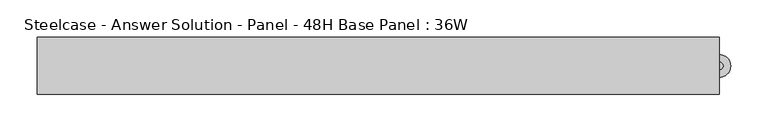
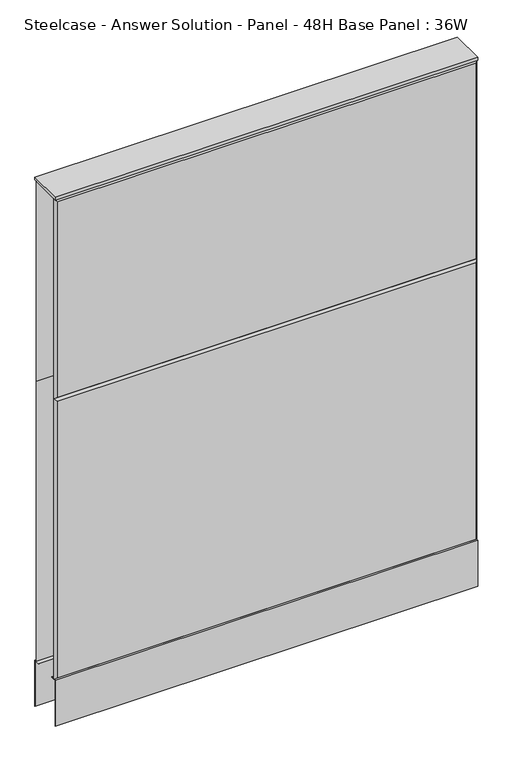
"""IFC4 building model written with IfcOpenShell, lengths in millimetres: furniture geometry, Steelcase - Answer Solution - Panel - 48H Base Panel : 36W."""

from ifc_helpers import new_model, si_unit, point, frame, frame_2d, origin, place, context, project, spatial, polyline, circle_curve, trimmed, segment, composite_curve, outline, extrude, faceted_brep, source, transform, mapped, element, save


def steelcase_answer_solution_panel_48h_base_panel_36w_c58aae0b(model_context):
    return source(origin(), model_context, "Body", "SolidModel", [
        extrude(outline(composite_curve([segment(trimmed(circle_curve(frame_2d((457.2, 0.0320214)), 5.08), [point((462.28, 0.0320214))], [point((452.12, 0.0320214))], False, "CARTESIAN"), True, "CONTINUOUS"), segment(trimmed(circle_curve(frame_2d((457.2, 0.0320214)), 5.08), [point((452.12, 0.0320214))], [point((462.28, 0.0320214))], False, "CARTESIAN"), True, "CONTINUOUS")], self_intersect=False)), frame((0.0, 0.0, 5.0799671), z_axis=(0.0, 0.0, 1.0), x_axis=(1.0, 0.0, 0.0)), (0.0, 0.0, 1.0), 10.414),
        extrude(outline(composite_curve([segment(trimmed(circle_curve(frame_2d((457.2, 0.0320214)), 15.24), [point((472.44, 0.0320214))], [point((441.96, 0.0320214))], False, "CARTESIAN"), True, "CONTINUOUS"), segment(trimmed(circle_curve(frame_2d((457.2, 0.0320214)), 15.24), [point((441.96, 0.0320214))], [point((472.44, 0.0320214))], False, "CARTESIAN"), True, "CONTINUOUS")], self_intersect=False)), frame((0.0, 0.0, -3.29e-05), z_axis=(0.0, 0.0, 1.0), x_axis=(1.0, 0.0, 0.0)), (0.0, 0.0, 1.0), 5.08),
        faceted_brep([(-452.374, 38.1635011, 1214.374), (452.374, 38.1635011, 1214.374), (452.374, 38.1635011, 766.826), (-452.374, 38.1635011, 766.826), (-457.2, 33.3375011, 1219.2), (-457.2, 33.3375011, 762.0), (457.2, 33.3375011, 762.0), (457.2, 33.3375011, 1219.2)], [[[0, 1, 2, 3]], [[4, 5, 6, 7]], [[4, 7, 1, 0]], [[7, 6, 2, 1]], [[6, 5, 3, 2]], [[5, 4, 0, 3]]]),
        faceted_brep([(-452.374, 38.1635011, 757.174), (452.374, 38.1635011, 757.174), (452.374, 38.1635011, 125.476), (-452.374, 38.1635011, 125.476), (-457.2, 33.3375011, 762.0), (-457.2, 33.3375011, 120.65), (457.2, 33.3375011, 120.65), (457.2, 33.3375011, 762.0)], [[[0, 1, 2, 3]], [[4, 5, 6, 7]], [[4, 7, 1, 0]], [[7, 6, 2, 1]], [[6, 5, 3, 2]], [[5, 4, 0, 3]]]),
        faceted_brep([(452.374, -38.1635011, 1214.374), (-452.374, -38.1635011, 1214.374), (-452.374, -38.1635011, 766.826), (452.374, -38.1635011, 766.826), (457.2, -33.3375011, 1219.2), (457.2, -33.3375011, 762.0), (-457.2, -33.3375011, 762.0), (-457.2, -33.3375011, 1219.2)], [[[0, 1, 2, 3]], [[4, 5, 6, 7]], [[4, 7, 1, 0]], [[7, 6, 2, 1]], [[6, 5, 3, 2]], [[5, 4, 0, 3]]]),
        faceted_brep([(452.374, -38.1635011, 757.174), (-452.374, -38.1635011, 757.174), (-452.374, -38.1635011, 125.476), (452.374, -38.1635011, 125.476), (457.2, -33.3375011, 762.0), (457.2, -33.3375011, 120.65), (-457.2, -33.3375011, 120.65), (-457.2, -33.3375011, 762.0)], [[[0, 1, 2, 3]], [[4, 5, 6, 7]], [[4, 7, 1, 0]], [[7, 6, 2, 1]], [[6, 5, 3, 2]], [[5, 4, 0, 3]]]),
        extrude(outline(polyline([(457.2, 38.1000194), (457.2, -38.1000194), (-457.2, -38.1000194), (-457.2, 38.1000194), (457.2, 38.1000194)])), frame((0.0, 0.0, 1219.2), z_axis=(0.0, 0.0, 1.0), x_axis=(1.0, 0.0, 0.0)), (0.0, 0.0, 1.0), 6.35),
        extrude(outline(polyline([(25.4000011, 119.8575157), (25.4000011, 120.65), (38.1000194, 120.65), (38.1000194, 15.494), (37.3075215, 15.494), (37.3075215, 119.8575157), (25.4000011, 119.8575157)])), frame((-457.2, 0.0, 0.0), z_axis=(1.0, 0.0, 0.0), x_axis=(0.0, 1.0, 0.0)), (0.0, 0.0, 1.0), 914.4),
        extrude(outline(polyline([(-25.4000011, 119.8575157), (-37.3075215, 119.8575157), (-37.3075215, 15.494), (-38.1000194, 15.494), (-38.1000194, 120.65), (-25.4000011, 120.65), (-25.4000011, 119.8575157)])), frame((-457.2, 0.0, 0.0), z_axis=(1.0, 0.0, 0.0), x_axis=(0.0, 1.0, 0.0)), (0.0, 0.0, 1.0), 914.4),
    ])


if __name__ == "__main__":
    model = new_model("IFC4")
    model_context = context("Model", 3, world=origin())
    ifc_project = project(units=[si_unit("LENGTHUNIT", "METRE", prefix="MILLI")], contexts=[model_context])
    site = spatial("IfcSite", under=ifc_project)
    building = spatial("IfcBuilding", under=site)
    placement = place(None, origin())
    steelcase_answer_solution_panel_48h_base_panel_36w_shape = steelcase_answer_solution_panel_48h_base_panel_36w_c58aae0b(model_context)
    element("IfcFurniture", 1, ObjectType="Steelcase - Answer Solution - Panel - 48H Base Panel : 36W", at=placement, inside=building, context=model_context, shape_type="MappedRepresentation", body=[
        mapped(steelcase_answer_solution_panel_48h_base_panel_36w_shape, transform((0.0, 0.0, 0.0), x_axis=(1.0, 0.0, 0.0), y_axis=(0.0, 1.0, 0.0), z_axis=(0.0, 0.0, 1.0))),
    ])
    save(model, "model.ifc")
